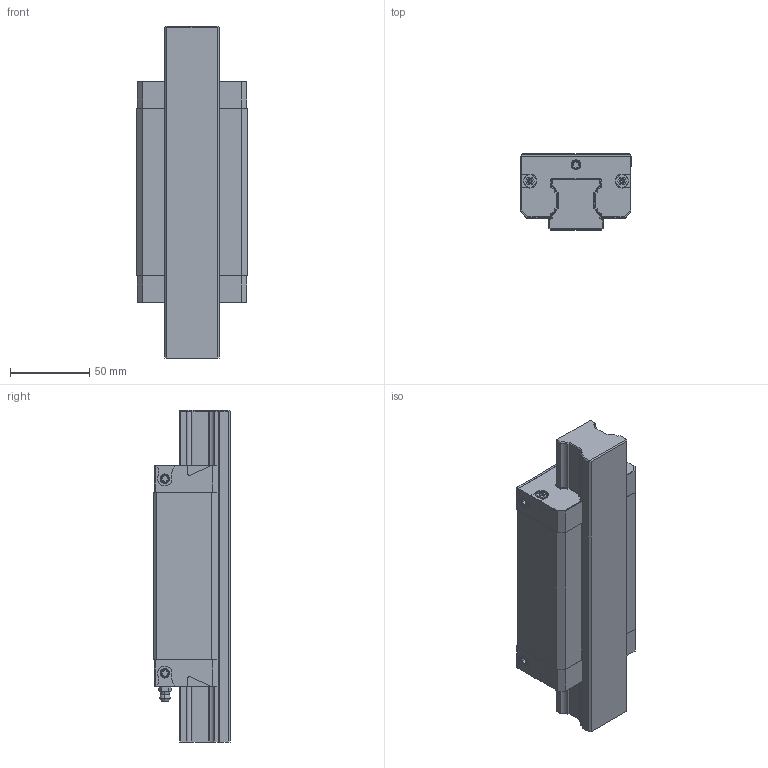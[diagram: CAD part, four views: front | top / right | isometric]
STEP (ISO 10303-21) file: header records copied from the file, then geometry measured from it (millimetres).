
FILE_DESCRIPTION((''),'2;1');
FILE_NAME('KWD_035_SLS_CS__ASM','2021-10-14T07:08:40',('ac91sw'),(''),'CREO PARAMETRIC BY PTC INC, 2020044','CREO PARAMETRIC BY PTC INC, 2020044','');
FILE_SCHEMA(('AUTOMOTIVE_DESIGN { 1 0 10303 214 1 1 1 1 }'));
Length unit declared in the file: millimetre
Products named in the file (7): KWD_035_SLS_CS__SKEL; R201230101; R200130102_Z; R343706101_Z; KWD_035_SLS_CS__PSF; R341700802_Z; KWD_035_SLS_CS__ASM
Assembly tree (11 placements, depth 2):
  KWD_035_SLS_CS__ASM
    KWD_035_SLS_CS__SKEL
    R201230101
    R200130102_Z  x2
    R343706101_Z  x5
    KWD_035_SLS_CS__PSF
    R341700802_Z
Bounding box: 70 x 48 x 209 mm (x, y, z)
Volume: 432618.2 mm3; surface area: 95657.6 mm2
Topology: 10 solids, 24 shells, 512 faces, 1310 edges, 830 vertices
Faces by surface type: plane 292, cylinder 142, cone 72, torus 4, sphere 2
Entity records: 16428 total; most frequent: CARTESIAN_POINT 1937, DIRECTION 1648, ORIENTED_EDGE 1540, PROPERTY_DEFINITION 824, REPRESENTATION 815, PROPERTY_DEFINITION_REPRESENTATION 815, EDGE_CURVE 786, DESCRIPTIVE_REPRESENTATION_ITEM 758
